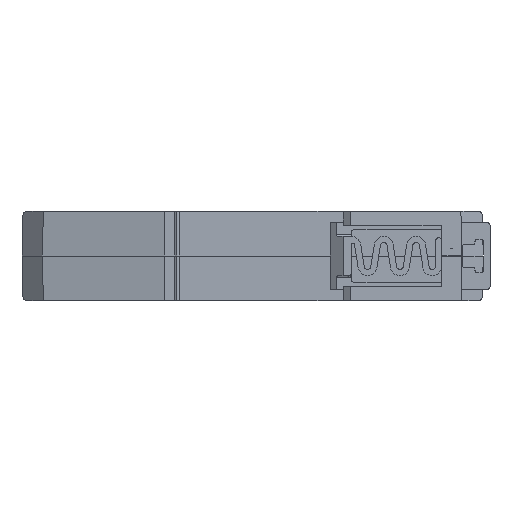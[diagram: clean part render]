
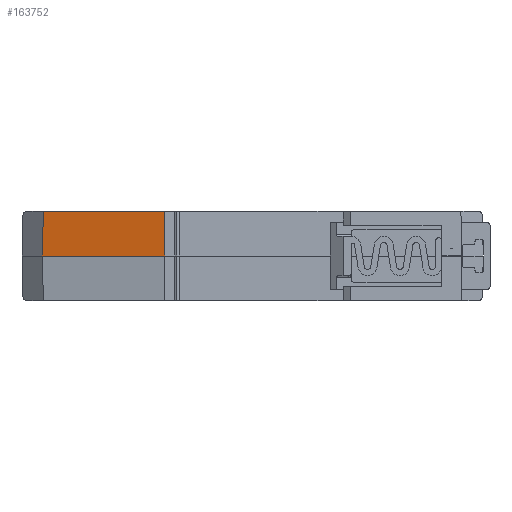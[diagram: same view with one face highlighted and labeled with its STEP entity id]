
A CAD part, front view. The second image highlights one B-rep face of the part: STEP entity #163752.
In plain terms, the highlighted planar face has unit normal (-0.207, -0.978, 0).
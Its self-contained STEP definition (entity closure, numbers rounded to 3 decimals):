
#153875 = PLANE('',#153876);
#153876 = AXIS2_PLACEMENT_3D('',#153877,#153878,#153879);
#153877 = CARTESIAN_POINT('',(0.,0.,0.));
#153878 = DIRECTION('',(0.,0.,1.));
#153879 = DIRECTION('',(1.,0.,-0.));
#157569 = VERTEX_POINT('',#157570);
#157570 = CARTESIAN_POINT('',(-41.058,5.058,0.));
#157584 = PLANE('',#157585);
#157585 = AXIS2_PLACEMENT_3D('',#157586,#157587,#157588);
#157586 = CARTESIAN_POINT('',(-44.976,8.976,0.));
#157587 = DIRECTION('',(-0.707,-0.707,
    0.017));
#157588 = DIRECTION('',(0.707,-0.707,0.));
#157596 = EDGE_CURVE('',#157597,#157569,#157599,.T.);
#157597 = VERTEX_POINT('',#157598);
#157598 = CARTESIAN_POINT('',(-17.15,0.,0.));
#157599 = SURFACE_CURVE('',#157600,(#157604,#157611),.PCURVE_S1.);
#157600 = LINE('',#157601,#157602);
#157601 = CARTESIAN_POINT('',(-17.15,0.,0.));
#157602 = VECTOR('',#157603,1.);
#157603 = DIRECTION('',(-0.978,0.207,0.));
#157604 = PCURVE('',#153875,#157605);
#157605 = DEFINITIONAL_REPRESENTATION('',(#157606),#157610);
#157606 = LINE('',#157607,#157608);
#157607 = CARTESIAN_POINT('',(-17.15,0.));
#157608 = VECTOR('',#157609,1.);
#157609 = DIRECTION('',(-0.978,0.207));
#157610 = ( GEOMETRIC_REPRESENTATION_CONTEXT(2) 
PARAMETRIC_REPRESENTATION_CONTEXT() REPRESENTATION_CONTEXT('2D SPACE',''
  ) );
#157611 = PCURVE('',#157612,#157617);
#157612 = PLANE('',#157613);
#157613 = AXIS2_PLACEMENT_3D('',#157614,#157615,#157616);
#157614 = CARTESIAN_POINT('',(-17.15,0.,-26.117));
#157615 = DIRECTION('',(-0.207,-0.978,0.));
#157616 = DIRECTION('',(0.978,-0.207,0.));
#157617 = DEFINITIONAL_REPRESENTATION('',(#157618),#157622);
#157618 = LINE('',#157619,#157620);
#157619 = CARTESIAN_POINT('',(0.,26.117));
#157620 = VECTOR('',#157621,1.);
#157621 = DIRECTION('',(-1.,0.));
#157622 = ( GEOMETRIC_REPRESENTATION_CONTEXT(2) 
PARAMETRIC_REPRESENTATION_CONTEXT() REPRESENTATION_CONTEXT('2D SPACE',''
  ) );
#157640 = PLANE('',#157641);
#157641 = AXIS2_PLACEMENT_3D('',#157642,#157643,#157644);
#157642 = CARTESIAN_POINT('',(-17.15,0.,-26.117));
#157643 = DIRECTION('',(0.,-1.,0.));
#157644 = DIRECTION('',(0.,0.,-1.));
#158449 = PLANE('',#158450);
#158450 = AXIS2_PLACEMENT_3D('',#158451,#158452,#158453);
#158451 = CARTESIAN_POINT('',(0.,0.,8.75));
#158452 = DIRECTION('',(0.,0.,-1.));
#158453 = DIRECTION('',(-1.,0.,0.));
#163683 = VERTEX_POINT('',#163684);
#163684 = CARTESIAN_POINT('',(-17.15,0.,8.75));
#163705 = EDGE_CURVE('',#157597,#163683,#163706,.T.);
#163706 = SURFACE_CURVE('',#163707,(#163711,#163718),.PCURVE_S1.);
#163707 = LINE('',#163708,#163709);
#163708 = CARTESIAN_POINT('',(-17.15,0.,-26.117));
#163709 = VECTOR('',#163710,1.);
#163710 = DIRECTION('',(0.,0.,1.));
#163711 = PCURVE('',#157640,#163712);
#163712 = DEFINITIONAL_REPRESENTATION('',(#163713),#163717);
#163713 = LINE('',#163714,#163715);
#163714 = CARTESIAN_POINT('',(0.,0.));
#163715 = VECTOR('',#163716,1.);
#163716 = DIRECTION('',(-1.,0.));
#163717 = ( GEOMETRIC_REPRESENTATION_CONTEXT(2) 
PARAMETRIC_REPRESENTATION_CONTEXT() REPRESENTATION_CONTEXT('2D SPACE',''
  ) );
#163718 = PCURVE('',#157612,#163719);
#163719 = DEFINITIONAL_REPRESENTATION('',(#163720),#163724);
#163720 = LINE('',#163721,#163722);
#163721 = CARTESIAN_POINT('',(0.,0.));
#163722 = VECTOR('',#163723,1.);
#163723 = DIRECTION('',(0.,1.));
#163724 = ( GEOMETRIC_REPRESENTATION_CONTEXT(2) 
PARAMETRIC_REPRESENTATION_CONTEXT() REPRESENTATION_CONTEXT('2D SPACE',''
  ) );
#163752 = ADVANCED_FACE('',(#163753),#157612,.T.);
#163753 = FACE_BOUND('',#163754,.T.);
#163754 = EDGE_LOOP('',(#163755,#163756,#163757,#163780));
#163755 = ORIENTED_EDGE('',*,*,#157596,.F.);
#163756 = ORIENTED_EDGE('',*,*,#163705,.T.);
#163757 = ORIENTED_EDGE('',*,*,#163758,.F.);
#163758 = EDGE_CURVE('',#163759,#163683,#163761,.T.);
#163759 = VERTEX_POINT('',#163760);
#163760 = CARTESIAN_POINT('',(-40.784,5.,8.75));
#163761 = SURFACE_CURVE('',#163762,(#163766,#163773),.PCURVE_S1.);
#163762 = LINE('',#163763,#163764);
#163763 = CARTESIAN_POINT('',(-17.15,0.,8.75));
#163764 = VECTOR('',#163765,1.);
#163765 = DIRECTION('',(0.978,-0.207,0.));
#163766 = PCURVE('',#157612,#163767);
#163767 = DEFINITIONAL_REPRESENTATION('',(#163768),#163772);
#163768 = LINE('',#163769,#163770);
#163769 = CARTESIAN_POINT('',(0.,34.867));
#163770 = VECTOR('',#163771,1.);
#163771 = DIRECTION('',(1.,0.));
#163772 = ( GEOMETRIC_REPRESENTATION_CONTEXT(2) 
PARAMETRIC_REPRESENTATION_CONTEXT() REPRESENTATION_CONTEXT('2D SPACE',''
  ) );
#163773 = PCURVE('',#158449,#163774);
#163774 = DEFINITIONAL_REPRESENTATION('',(#163775),#163779);
#163775 = LINE('',#163776,#163777);
#163776 = CARTESIAN_POINT('',(17.15,0.));
#163777 = VECTOR('',#163778,1.);
#163778 = DIRECTION('',(-0.978,-0.207));
#163779 = ( GEOMETRIC_REPRESENTATION_CONTEXT(2) 
PARAMETRIC_REPRESENTATION_CONTEXT() REPRESENTATION_CONTEXT('2D SPACE',''
  ) );
#163780 = ORIENTED_EDGE('',*,*,#163781,.T.);
#163781 = EDGE_CURVE('',#163759,#157569,#163782,.T.);
#163782 = SURFACE_CURVE('',#163783,(#163787,#163794),.PCURVE_S1.);
#163783 = LINE('',#163784,#163785);
#163784 = CARTESIAN_POINT('',(-41.063,5.059,
    -0.148));
#163785 = VECTOR('',#163786,1.);
#163786 = DIRECTION('',(-0.031,0.007,
    -0.999));
#163787 = PCURVE('',#157612,#163788);
#163788 = DEFINITIONAL_REPRESENTATION('',(#163789),#163793);
#163789 = LINE('',#163790,#163791);
#163790 = CARTESIAN_POINT('',(-24.442,25.969));
#163791 = VECTOR('',#163792,1.);
#163792 = DIRECTION('',(-0.032,-0.999));
#163793 = ( GEOMETRIC_REPRESENTATION_CONTEXT(2) 
PARAMETRIC_REPRESENTATION_CONTEXT() REPRESENTATION_CONTEXT('2D SPACE',''
  ) );
#163794 = PCURVE('',#157584,#163795);
#163795 = DEFINITIONAL_REPRESENTATION('',(#163796),#163800);
#163796 = LINE('',#163797,#163798);
#163797 = CARTESIAN_POINT('',(5.537,-0.148));
#163798 = VECTOR('',#163799,1.);
#163799 = DIRECTION('',(-0.027,-1.));
#163800 = ( GEOMETRIC_REPRESENTATION_CONTEXT(2) 
PARAMETRIC_REPRESENTATION_CONTEXT() REPRESENTATION_CONTEXT('2D SPACE',''
  ) );
